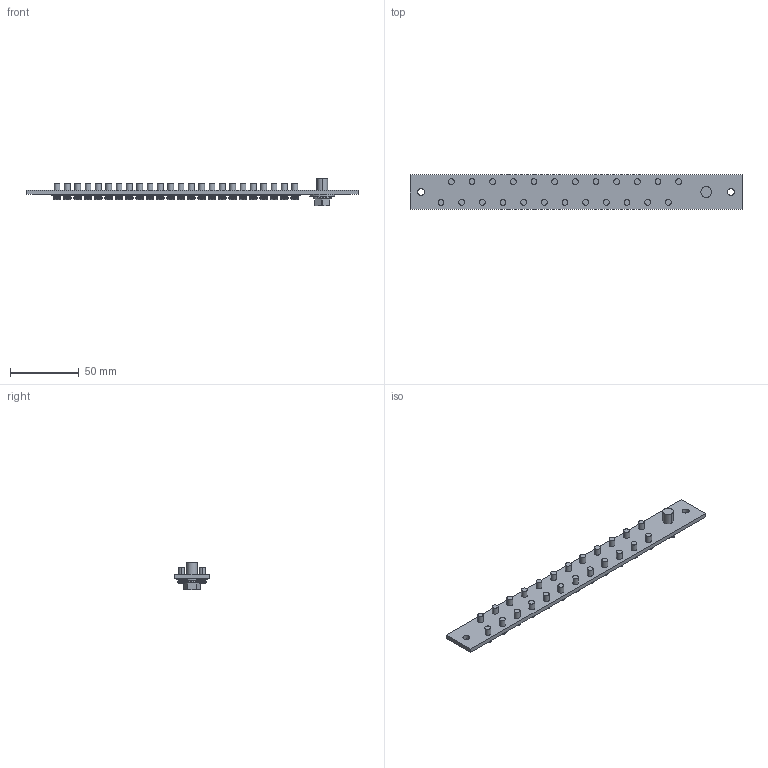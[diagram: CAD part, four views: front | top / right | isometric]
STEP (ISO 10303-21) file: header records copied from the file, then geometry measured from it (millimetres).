
FILE_DESCRIPTION(('Creo Elements/Direct Modeling STEP Export'),'2;1');
FILE_NAME('25.stp','2025-07-24T17:28:34',(''),(''),'PTC Creo Elements/Direct Modeling STEP processor for AP214 (Solid Model)','PTC Creo Elements/Direct Modeling 19.0 09-May-2014 (C) Parametric Technology GmbH','');
FILE_SCHEMA(('AUTOMOTIVE_DESIGN { 1 0 10303 214 1 1 1 1 }'));
Length unit declared in the file: millimetre
Products named in the file (16): QUILT_3-34740.PRT; QUILT_2-34360.PRT; QUILT_1-14960.PRT; USER_LIBRARY-SAN_ZU_HE_LUO-2060.PRT; M5_1_1.ASM; A1.ASM; SCREW_1_2_PRT.PRT; SCREW_1_1_PRT.PRT; SCREW_1_ASM.ASM; SCREW_0723_STP.ASM; CU.PRT; QUILT_3-86260.PRT; QUILT_2-85880.PRT; M5_1_1_1_1_1_1_1_1_1_1_1_1_1.ASM; 25N_1.ASM; 25.stp
Assembly tree (39 placements, depth 5):
  25.stp
    25N_1.ASM
      M5_1_1_1_1_1_1_1_1_1_1_1_1_1.ASM  x2
        QUILT_2-85880.PRT
        QUILT_3-86260.PRT
      CU.PRT
      M5_1_1.ASM  x12
        USER_LIBRARY-SAN_ZU_HE_LUO-2060.PRT
        QUILT_1-14960.PRT
        QUILT_2-34360.PRT
        QUILT_3-34740.PRT
      SCREW_0723_STP.ASM
        SCREW_1_ASM.ASM
          SCREW_1_1_PRT.PRT
          SCREW_1_2_PRT.PRT
      A1.ASM
        M5_1_1.ASM  x12
          USER_LIBRARY-SAN_ZU_HE_LUO-2060.PRT
          QUILT_1-14960.PRT
          QUILT_2-34360.PRT
          QUILT_3-34740.PRT
Bounding box: 241 x 25 x 20 mm (x, y, z)
Volume: 23419.1 mm3; surface area: 23267.2 mm2
Topology: 51 solids, 51 shells, 1044 faces, 2645 edges, 1731 vertices
Faces by surface type: plane 584, cylinder 360, torus 100
Entity records: 5372 total; most frequent: CARTESIAN_POINT 839, DIRECTION 794, ORIENTED_EDGE 782, EDGE_CURVE 391, AXIS2_PLACEMENT_3D 303, VERTEX_POINT 259, EDGE_LOOP 210, VECTOR 188
